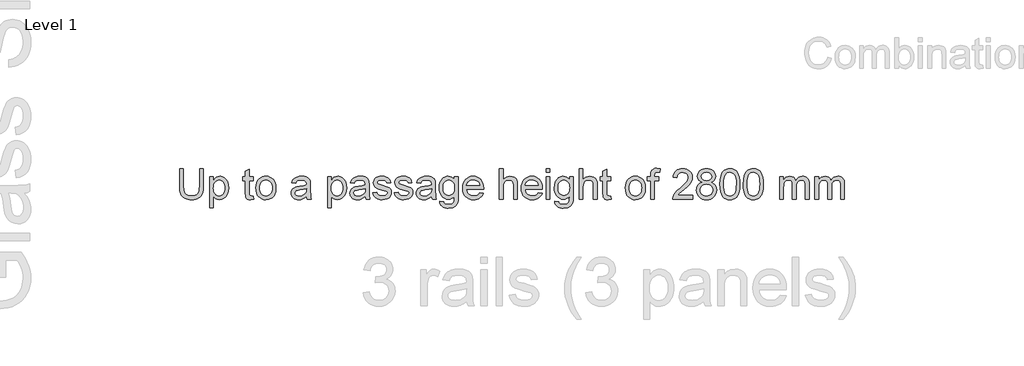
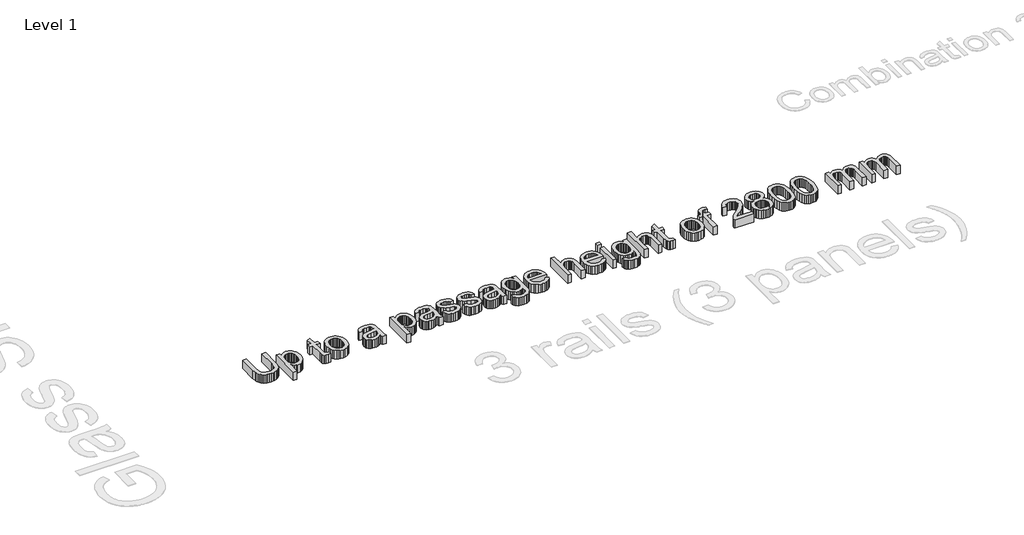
# One storey, part 7 of 47: 1 proxy.
"""IFC4 building model written with IfcOpenShell, lengths in millimetres."""

from ifc_helpers import new_model, si_unit, origin, origin_with_axes, place, context, project, spatial, polyline, outline, extrude, element, save

model = new_model("IFC4")

# Units and contexts
model_context = context("Model", 3, world=origin())
ifc_project = project(units=[si_unit("LENGTHUNIT", "METRE", prefix="MILLI")], contexts=[model_context])

# Site, building, storey
site = spatial("IfcSite", under=ifc_project)
building = spatial("IfcBuilding", under=site)
storey = spatial("IfcBuildingStorey", under=building, Name="Level 1", Elevation=0.0)

# Proxy
placement = place(None, origin())
element("IfcBuildingElementProxy", 1, Name="500mm Arial", ObjectType="500mm Arial", at=placement, inside=storey, context=model_context, shape_type="SweptSolid", body=[
    extrude(outline(polyline([(173703.9255584, -47356.4083813), (173766.7107522, -47356.4083813), (173766.7107522, -47646.1767662), (173762.4494525, -47714.0356658), (173749.6655531, -47766.2902376), (173739.4338351, -47787.4817733), (173725.7838803, -47806.6039729), (173708.7156886, -47823.6568362), (173688.2292599, -47838.6403633), (173664.3016018, -47850.8456149), (173636.9097216, -47859.5636518), (173606.0536193, -47864.7944739), (173571.7332948, -47866.5380813), (173538.2598653, -47865.020568), (173507.9824107, -47860.4680283), (173480.9009309, -47852.8804622), (173457.015426, -47842.2578696), (173436.3220637, -47828.7573668), (173418.8170121, -47812.5360701), (173404.5002712, -47793.5939794), (173393.3718408, -47771.9310948), (173385.0293501, -47746.8039881), (173379.0704282, -47717.4692311), (173374.3032907, -47646.1767662), (173374.3032907, -47356.4083813), (173437.0884846, -47356.4083813), (173437.0884846, -47643.9694742), (173440.1848247, -47700.3933752), (173449.4738451, -47739.6801066), (173466.3044464, -47766.8880458), (173492.0255292, -47787.0755703), (173525.5641044, -47799.5835581), (173565.8471829, -47803.7528874), (173600.4510831, -47801.6912154), (173629.7053659, -47795.5061994), (173653.6100314, -47785.1978393), (173672.1650795, -47770.7661352), (173686.060289, -47750.4713118), (173695.9854387, -47722.5735938), (173701.9405285, -47687.0729813), (173703.9255584, -47643.9694742), (173703.9255584, -47356.4083813)])), origin_with_axes(), (0.0, 0.0, 1.0), 150.0),
    extrude(outline(polyline([(173868.7366922, -47999.9566182), (173868.7366922, -47489.8269182), (173931.5218861, -47489.8269182), (173931.5218861, -47551.3858387), (173952.0006505, -47521.0202457), (173974.9319615, -47499.3305364), (174001.6647198, -47486.3167108), (174033.5478261, -47481.978769), (174055.444469, -47483.4962822), (174076.0075397, -47488.0488219), (174095.2370381, -47495.636388), (174113.1329644, -47506.2589807), (174129.3044437, -47519.6406882), (174143.3606016, -47535.5055993), (174165.126953, -47574.6850318), (174178.2787344, -47620.9461926), (174182.6626615, -47671.4379965), (174177.7115829, -47725.1334394), (174162.8583474, -47773.1573682), (174151.8372159, -47794.4332102), (174138.5781357, -47813.0725646), (174123.0811067, -47829.0754314), (174105.3461288, -47842.4418106), (174066.6418772, -47860.5140136), (174025.9449315, -47866.5380813), (173997.0815233, -47862.5067077), (173971.3144552, -47850.4125871), (173949.2568639, -47832.1564431), (173931.5218861, -47809.6389993), (173931.5218861, -47999.9566182), (173868.7366922, -47999.9566182)]), holes=[polyline([(173931.5218861, -47677.2014811), (173933.2195082, -47707.4597752), (173938.3123746, -47733.4874263), (173946.8004852, -47755.2844346), (173958.6838401, -47772.8507998), (173972.9890847, -47786.3704631), (173988.7428648, -47796.0273655), (174005.9451801, -47801.8215069), (174024.5960309, -47803.7528874), (174043.5151289, -47801.7525291), (174061.0316768, -47795.751454), (174077.1456746, -47785.7496623), (174091.8571223, -47771.7471538), (174104.1160234, -47753.5446593), (174112.8723813, -47730.9429092), (174118.126196, -47703.9419036), (174119.8774676, -47672.5416425), (174118.1683492, -47642.5439314), (174113.0409939, -47616.5622655), (174104.4954017, -47594.5966447), (174092.5315726, -47576.6470691), (174078.191839, -47562.6982101), (174062.5185332, -47552.7347394), (174045.5116551, -47546.756657), (174027.1712048, -47544.7639628), (174008.8882361, -47546.8831164), (173991.6859207, -47553.2405771), (173975.5642587, -47563.836345), (173960.52325, -47578.67042), (173947.8351533, -47597.5435328), (173938.7722271, -47620.2564139), (173933.3344713, -47646.8090633), (173931.5218861, -47677.2014811)])]), origin_with_axes(), (0.0, 0.0, 1.0), 150.0),
    extrude(outline(polyline([(174582.9182722, -47806.3280614), (174590.7664214, -47860.529342), (174543.8001534, -47866.5380813), (174513.6644866, -47863.9322505), (174491.1930281, -47856.1147581), (174475.3127886, -47844.0666227), (174464.9507791, -47828.7688631), (174459.2486082, -47802.4959573), (174457.3478845, -47757.5223834), (174457.3478845, -47552.612112), (174410.2589891, -47552.612112), (174410.2589891, -47489.8269182), (174457.3478845, -47489.8269182), (174457.3478845, -47400.1863387), (174520.1330784, -47363.2755119), (174520.1330784, -47489.8269182), (174582.9182722, -47489.8269182), (174582.9182722, -47552.612112), (174520.1330784, -47552.612112), (174520.1330784, -47755.6829734), (174523.4440163, -47788.056589), (174534.1739079, -47799.5222445), (174555.5723772, -47803.7528874), (174582.9182722, -47806.3280614)])), origin_with_axes(), (0.0, 0.0, 1.0), 150.0),
    extrude(outline(polyline([(174630.0071676, -47674.2584251), (174633.4024118, -47626.4874152), (174643.5881446, -47585.3229528), (174660.5643658, -47550.7650379), (174684.3310756, -47522.8136704), (174708.2587337, -47504.948401), (174734.6695952, -47492.1874943), (174763.5636603, -47484.5309503), (174794.9409288, -47481.978769), (174829.5793179, -47485.0866054), (174860.8991048, -47494.4101147), (174888.9002896, -47509.9492969), (174913.5828722, -47531.704152), (174933.7282436, -47558.9389159), (174948.1177945, -47590.9178248), (174956.7515251, -47627.6408785), (174959.6294353, -47669.1080772), (174954.540401, -47732.5370645), (174948.1791082, -47758.5723799), (174939.2732982, -47780.8215764), (174927.9341021, -47800.0395785), (174914.272651, -47816.9813108), (174898.2889447, -47831.6467733), (174879.9829833, -47844.0359659), (174839.2553808, -47860.9125524), (174794.9409288, -47866.5380813), (174759.7967019, -47863.4417411), (174728.1856751, -47854.1527208), (174700.1078482, -47838.6710201), (174675.5632213, -47816.9966392), (174655.6324478, -47789.4974601), (174641.396181, -47756.5413647), (174632.854421, -47718.128353), (174630.0071676, -47674.2584251)]), holes=[polyline([(174692.7923614, -47674.1357978), (174694.6087788, -47704.5895292), (174700.0580308, -47730.9582376), (174709.1401176, -47753.2419231), (174721.8550391, -47771.4405855), (174737.3214113, -47785.5772176), (174754.6578503, -47795.6748119), (174773.8643561, -47801.7333685), (174794.9409288, -47803.7528874), (174815.9102025, -47801.7218722), (174835.0400662, -47795.6288267), (174852.33052, -47785.4737508), (174867.7815638, -47771.2566445), (174880.4964853, -47752.8778732), (174889.578572, -47730.237802), (174895.0278241, -47703.3364312), (174896.8442414, -47672.1737605), (174895.0163278, -47642.6857193), (174889.5325868, -47617.0067896), (174880.3930185, -47595.1369714), (174867.5976228, -47577.0762647), (174852.0890975, -47562.9396326), (174834.81014, -47552.8420383), (174815.7607504, -47546.7834817), (174794.9409288, -47544.7639628), (174773.8643561, -47546.7758175), (174754.6578503, -47552.8113815), (174737.3214113, -47562.8706548), (174721.8550391, -47576.9536374), (174709.1401176, -47595.0986504), (174700.0580308, -47617.3440148), (174694.6087788, -47643.6897306), (174692.7923614, -47674.1357978)])]), origin_with_axes(), (0.0, 0.0, 1.0), 150.0),
    extrude(outline(polyline([(175461.910986, -47811.6010366), (175431.913275, -47837.3221195), (175401.0265158, -47854.1527208), (175368.5456013, -47863.4417411), (175333.7654244, -47866.5380813), (175305.8102248, -47864.6756787), (175281.2962548, -47859.0884709), (175260.2235143, -47849.7764579), (175242.5920032, -47836.7396397), (175228.669969, -47820.8057507), (175218.7256588, -47802.8025256), (175212.7590727, -47782.7299642), (175210.7702106, -47760.5880667), (175213.7745803, -47734.5604155), (175222.7876892, -47710.9239973), (175236.6905629, -47690.6904876), (175254.3642271, -47674.8715618), (175275.1342314, -47662.9153969), (175298.3261255, -47654.27017), (175352.6500335, -47644.8278655), (175416.8454416, -47634.8950516), (175461.543104, -47623.2454551), (175461.910986, -47609.2659393), (175457.5883726, -47581.245594), (175444.6205323, -47562.9128079), (175431.545393, -47554.9726882), (175415.6191683, -47549.3011741), (175375.2134625, -47544.7639628), (175337.8121263, -47547.7836609), (175311.6925047, -47556.842755), (175293.8808847, -47573.5967142), (175281.4035537, -47599.7010074), (175218.6183599, -47591.8528582), (175229.516864, -47557.5172053), (175245.7803139, -47530.5391923), (175268.9262227, -47509.9071438), (175300.4721038, -47494.6093841), (175339.0537281, -47485.1364228), (175383.3068664, -47481.978769), (175425.7512516, -47484.7685408), (175459.3971257, -47493.1378562), (175484.765655, -47505.7224861), (175502.3780055, -47521.1582015), (175514.0582588, -47540.24208), (175521.6304966, -47563.7711992), (175524.6961799, -47618.7082438), (175524.6961799, -47696.8218542), (175527.8844905, -47805.8988657), (175532.6056428, -47832.8615503), (175540.3924783, -47858.689932), (175477.6072845, -47858.689932), (175467.5518433, -47836.862267), (175461.910986, -47811.6010366)]), holes=[polyline([(175461.910986, -47686.030649), (175419.7271839, -47696.484629), (175360.62081, -47705.28314), (175306.6034704, -47715.4612086), (175292.5473125, -47722.4203097), (175282.1393177, -47732.0158984), (175275.7013828, -47743.5122107), (175273.5554045, -47756.1734827), (175278.2305715, -47774.843494), (175292.2560726, -47790.1412536), (175315.3253394, -47800.349979), (175347.1318035, -47803.7528874), (175380.8543198, -47799.9974254), (175410.6527614, -47788.7310393), (175434.8103457, -47772.1303642), (175451.6102902, -47752.3720354), (175459.0599006, -47732.0158984), (175461.543104, -47703.8116121), (175461.910986, -47686.030649)])]), origin_with_axes(), (0.0, 0.0, 1.0), 150.0),
    extrude(outline(polyline([(175807.2295522, -47999.9566182), (175807.2295522, -47489.8269182), (175870.014746, -47489.8269182), (175870.014746, -47551.3858387), (175890.4935104, -47521.0202457), (175913.4248214, -47499.3305364), (175940.1575798, -47486.3167108), (175972.040686, -47481.978769), (175993.9373289, -47483.4962822), (176014.5003996, -47488.0488219), (176033.7298981, -47495.636388), (176051.6258243, -47506.2589807), (176067.7973037, -47519.6406882), (176081.8534616, -47535.5055993), (176103.6198129, -47574.6850318), (176116.7715943, -47620.9461926), (176121.1555214, -47671.4379965), (176116.2044429, -47725.1334394), (176101.3512073, -47773.1573682), (176090.3300759, -47794.4332102), (176077.0709956, -47813.0725646), (176061.5739666, -47829.0754314), (176043.8389887, -47842.4418106), (176005.1347372, -47860.5140136), (175964.4377914, -47866.5380813), (175935.5743832, -47862.5067077), (175909.8073152, -47850.4125871), (175887.7497239, -47832.1564431), (175870.014746, -47809.6389993), (175870.014746, -47999.9566182), (175807.2295522, -47999.9566182)]), holes=[polyline([(175870.014746, -47677.2014811), (175871.7123681, -47707.4597752), (175876.8052345, -47733.4874263), (175885.2933451, -47755.2844346), (175897.1767, -47772.8507998), (175911.4819446, -47786.3704631), (175927.2357247, -47796.0273655), (175944.4380401, -47801.8215069), (175963.0888908, -47803.7528874), (175982.0079888, -47801.7525291), (175999.5245367, -47795.751454), (176015.6385345, -47785.7496623), (176030.3499822, -47771.7471538), (176042.6088833, -47753.5446593), (176051.3652412, -47730.9429092), (176056.619056, -47703.9419036), (176058.3703275, -47672.5416425), (176056.6612091, -47642.5439314), (176051.5338538, -47616.5622655), (176042.9882616, -47594.5966447), (176031.0244326, -47576.6470691), (176016.684699, -47562.6982101), (176001.0113931, -47552.7347394), (175984.0045151, -47546.756657), (175965.6640648, -47544.7639628), (175947.381096, -47546.8831164), (175930.1787806, -47553.2405771), (175914.0571186, -47563.836345), (175899.01611, -47578.67042), (175886.3280132, -47597.5435328), (175877.265087, -47620.2564139), (175871.8273313, -47646.8090633), (175870.014746, -47677.2014811)])]), origin_with_axes(), (0.0, 0.0, 1.0), 150.0),
    extrude(outline(polyline([(176427.2333414, -47811.6010366), (176397.2356303, -47837.3221195), (176366.3488712, -47854.1527208), (176333.8679567, -47863.4417411), (176299.0877797, -47866.5380813), (176271.1325802, -47864.6756787), (176246.6186102, -47859.0884709), (176225.5458696, -47849.7764579), (176207.9143586, -47836.7396397), (176193.9923243, -47820.8057507), (176184.0480141, -47802.8025256), (176178.081428, -47782.7299642), (176176.092566, -47760.5880667), (176179.0969356, -47734.5604155), (176188.1100445, -47710.9239973), (176202.0129182, -47690.6904876), (176219.6865824, -47674.8715618), (176240.4565867, -47662.9153969), (176263.6484808, -47654.27017), (176317.9723888, -47644.8278655), (176382.167797, -47634.8950516), (176426.8654594, -47623.2454551), (176427.2333414, -47609.2659393), (176422.9107279, -47581.245594), (176409.9428876, -47562.9128079), (176396.8677483, -47554.9726882), (176380.9415236, -47549.3011741), (176340.5358178, -47544.7639628), (176303.1344817, -47547.7836609), (176277.01486, -47556.842755), (176259.2032401, -47573.5967142), (176246.7259091, -47599.7010074), (176183.9407152, -47591.8528582), (176194.8392193, -47557.5172053), (176211.1026692, -47530.5391923), (176234.2485781, -47509.9071438), (176265.7944592, -47494.6093841), (176304.3760834, -47485.1364228), (176348.6292217, -47481.978769), (176391.0736069, -47484.7685408), (176424.7194811, -47493.1378562), (176450.0880103, -47505.7224861), (176467.7003608, -47521.1582015), (176479.3806142, -47540.24208), (176486.9528519, -47563.7711992), (176490.0185352, -47618.7082438), (176490.0185352, -47696.8218542), (176493.2068458, -47805.8988657), (176497.9279981, -47832.8615503), (176505.7148337, -47858.689932), (176442.9296398, -47858.689932), (176432.8741986, -47836.862267), (176427.2333414, -47811.6010366)]), holes=[polyline([(176427.2333414, -47686.030649), (176385.0495393, -47696.484629), (176325.9431654, -47705.28314), (176271.9258257, -47715.4612086), (176257.8696678, -47722.4203097), (176247.4616731, -47732.0158984), (176241.0237381, -47743.5122107), (176238.8777598, -47756.1734827), (176243.5529269, -47774.843494), (176257.5784279, -47790.1412536), (176280.6476947, -47800.349979), (176312.4541589, -47803.7528874), (176346.1766751, -47799.9974254), (176375.9751167, -47788.7310393), (176400.1327011, -47772.1303642), (176416.9326455, -47752.3720354), (176424.3822559, -47732.0158984), (176426.8654594, -47703.8116121), (176427.2333414, -47686.030649)])]), origin_with_axes(), (0.0, 0.0, 1.0), 150.0),
    extrude(outline(polyline([(176552.8037291, -47748.8158428), (176615.5889229, -47740.9676936), (176625.4910799, -47767.8230792), (176644.6516005, -47787.5660796), (176673.193112, -47799.7061855), (176711.2382416, -47803.7528874), (176748.8235188, -47800.0434106), (176775.2497088, -47788.9149803), (176790.8846936, -47772.7894862), (176796.0963552, -47754.0888181), (176790.8540368, -47738.0859513), (176775.1270815, -47725.8845318), (176710.5024777, -47707.9809413), (176653.2048569, -47691.4109231), (176615.9568049, -47677.2627947), (176592.0291468, -47661.8270794), (176574.6927078, -47641.3943002), (176564.1620857, -47617.2673727), (176560.6518783, -47590.7492122), (176563.4723069, -47566.4230153), (176571.9335928, -47543.9668852), (176585.2693151, -47524.26987), (176602.7130531, -47508.221018), (176620.0494921, -47498.1195915), (176642.6282495, -47489.6429772), (176668.7325428, -47483.894821), (176696.6455892, -47481.978769), (176737.5111475, -47485.0597807), (176773.0424168, -47494.3028158), (176801.6145851, -47508.8034978), (176821.6028402, -47527.65745), (176834.846592, -47552.2595585), (176843.1852506, -47584.004709), (176780.4000567, -47591.8528582), (176772.4752654, -47572.0945294), (176756.7942954, -47557.210637), (176733.2038624, -47547.8756314), (176701.5506824, -47544.7639628), (176665.4982469, -47547.7376756), (176641.4632899, -47556.658814), (176627.9436266, -47569.5346838), (176623.4370721, -47584.372591), (176625.3071389, -47594.0294933), (176630.9173394, -47602.6440634), (176640.5129281, -47610.3389285), (176654.3391597, -47616.5009519), (176708.417813, -47629.867331), (176800.5722528, -47659.420518), (176824.9137782, -47673.553318), (176843.3691916, -47692.8977795), (176855.0034597, -47717.5152164), (176858.881549, -47747.4669422), (176854.3290094, -47778.4303434), (176840.6713903, -47807.5543347), (176818.429858, -47832.554982), (176788.1255786, -47851.1483511), (176751.5213201, -47862.6906487), (176710.3798503, -47866.5380813), (176676.5883562, -47864.6833429), (176647.0734903, -47859.1191277), (176621.8352526, -47849.8454357), (176600.8736431, -47836.862267), (176583.7518019, -47820.2309351), (176570.0328692, -47800.0127538), (176559.7168449, -47776.207723), (176552.8037291, -47748.8158428)])), origin_with_axes(), (0.0, 0.0, 1.0), 150.0),
    extrude(outline(polyline([(176905.9704444, -47748.8158428), (176968.7556383, -47740.9676936), (176978.6577953, -47767.8230792), (176997.8183159, -47787.5660796), (177026.3598273, -47799.7061855), (177064.404957, -47803.7528874), (177101.9902342, -47800.0434106), (177128.4164242, -47788.9149803), (177144.051409, -47772.7894862), (177149.2630706, -47754.0888181), (177144.0207521, -47738.0859513), (177128.2937968, -47725.8845318), (177063.669193, -47707.9809413), (177006.3715723, -47691.4109231), (176969.1235203, -47677.2627947), (176945.1958622, -47661.8270794), (176927.8594231, -47641.3943002), (176917.328801, -47617.2673727), (176913.8185937, -47590.7492122), (176916.6390223, -47566.4230153), (176925.1003082, -47543.9668852), (176938.4360305, -47524.26987), (176955.8797684, -47508.221018), (176973.2162075, -47498.1195915), (176995.7949649, -47489.6429772), (177021.8992582, -47483.894821), (177049.8123045, -47481.978769), (177090.6778628, -47485.0597807), (177126.2091322, -47494.3028158), (177154.7813005, -47508.8034978), (177174.7695556, -47527.65745), (177188.0133074, -47552.2595585), (177196.351966, -47584.004709), (177133.5667721, -47591.8528582), (177125.6419808, -47572.0945294), (177109.9610107, -47557.210637), (177086.3705778, -47547.8756314), (177054.7173978, -47544.7639628), (177018.6649623, -47547.7376756), (176994.6300053, -47556.658814), (176981.1103419, -47569.5346838), (176976.6037875, -47584.372591), (176978.4738543, -47594.0294933), (176984.0840547, -47602.6440634), (176993.6796434, -47610.3389285), (177007.5058751, -47616.5009519), (177061.5845284, -47629.867331), (177153.7389682, -47659.420518), (177178.0804935, -47673.553318), (177196.5359069, -47692.8977795), (177208.170175, -47717.5152164), (177212.0482644, -47747.4669422), (177207.4957247, -47778.4303434), (177193.8381056, -47807.5543347), (177171.5965734, -47832.554982), (177141.292294, -47851.1483511), (177104.6880355, -47862.6906487), (177063.5465657, -47866.5380813), (177029.7550716, -47864.6833429), (177000.2402057, -47859.1191277), (176975.001968, -47849.8454357), (176954.0403585, -47836.862267), (176936.9185173, -47820.2309351), (176923.1995845, -47800.0127538), (176912.8835602, -47776.207723), (176905.9704444, -47748.8158428)])), origin_with_axes(), (0.0, 0.0, 1.0), 150.0),
    extrude(outline(polyline([(177518.1260844, -47811.6010366), (177488.1283734, -47837.3221195), (177457.2416142, -47854.1527208), (177424.7606997, -47863.4417411), (177389.9805227, -47866.5380813), (177362.0253232, -47864.6756787), (177337.5113532, -47859.0884709), (177316.4386126, -47849.7764579), (177298.8071016, -47836.7396397), (177284.8850674, -47820.8057507), (177274.9407572, -47802.8025256), (177268.9741711, -47782.7299642), (177266.985309, -47760.5880667), (177269.9896787, -47734.5604155), (177279.0027875, -47710.9239973), (177292.9056613, -47690.6904876), (177310.5793255, -47674.8715618), (177331.3493298, -47662.9153969), (177354.5412239, -47654.27017), (177408.8651318, -47644.8278655), (177473.06054, -47634.8950516), (177517.7582024, -47623.2454551), (177518.1260844, -47609.2659393), (177513.803471, -47581.245594), (177500.8356306, -47562.9128079), (177487.7604914, -47554.9726882), (177471.8342667, -47549.3011741), (177431.4285609, -47544.7639628), (177394.0272247, -47547.7836609), (177367.907603, -47556.842755), (177350.0959831, -47573.5967142), (177337.6186521, -47599.7010074), (177274.8334583, -47591.8528582), (177285.7319624, -47557.5172053), (177301.9954122, -47530.5391923), (177325.1413211, -47509.9071438), (177356.6872022, -47494.6093841), (177395.2688264, -47485.1364228), (177439.5219648, -47481.978769), (177481.96635, -47484.7685408), (177515.6122241, -47493.1378562), (177540.9807533, -47505.7224861), (177558.5931039, -47521.1582015), (177570.2733572, -47540.24208), (177577.8455949, -47563.7711992), (177580.9112782, -47618.7082438), (177580.9112782, -47696.8218542), (177584.0995889, -47805.8988657), (177588.8207411, -47832.8615503), (177596.6075767, -47858.689932), (177533.8223829, -47858.689932), (177523.7669417, -47836.862267), (177518.1260844, -47811.6010366)]), holes=[polyline([(177518.1260844, -47686.030649), (177475.9422823, -47696.484629), (177416.8359084, -47705.28314), (177362.8185688, -47715.4612086), (177348.7624109, -47722.4203097), (177338.3544161, -47732.0158984), (177331.9164812, -47743.5122107), (177329.7705029, -47756.1734827), (177334.4456699, -47774.843494), (177348.471171, -47790.1412536), (177371.5404377, -47800.349979), (177403.3469019, -47803.7528874), (177437.0694181, -47799.9974254), (177466.8678597, -47788.7310393), (177491.0254441, -47772.1303642), (177507.8253885, -47752.3720354), (177515.2749989, -47732.0158984), (177517.7582024, -47703.8116121), (177518.1260844, -47686.030649)])]), origin_with_axes(), (0.0, 0.0, 1.0), 150.0),
    extrude(outline(polyline([(177651.5446213, -47890.082529), (177714.3298152, -47897.9306782), (177721.2582594, -47917.5510513), (177734.6859522, -47931.0400577), (177761.0814854, -47941.5246946), (177795.6317361, -47945.0195736), (177832.4812493, -47941.0648421), (177859.8884579, -47929.2006478), (177878.8956943, -47910.1934114), (177890.5452908, -47884.8095537), (177893.9481993, -47857.8008839), (177894.8372475, -47811.6010366), (177873.9446158, -47832.2024284), (177850.6300944, -47846.9177082), (177824.8936831, -47855.7468761), (177796.7353821, -47858.689932), (177762.3115908, -47855.264031), (177732.0034793, -47844.9863277), (177705.8110477, -47827.8568223), (177683.7342959, -47803.8755147), (177666.217748, -47775.104077), (177653.705928, -47743.6041812), (177646.1988361, -47709.3758272), (177643.6964721, -47672.4190151), (177648.1876981, -47621.7279419), (177661.6613762, -47575.1142274), (177683.6423254, -47535.6128982), (177697.6448338, -47519.667513), (177713.6553648, -47506.2589807), (177731.4171674, -47495.636388), (177750.6734906, -47488.0488219), (177771.4243344, -47483.4962822), (177793.6696988, -47481.978769), (177823.0312805, -47485.4123343), (177849.6797326, -47495.7130301), (177873.6150549, -47512.8808566), (177894.8372475, -47536.9158136), (177894.8372475, -47489.8269182), (177957.6224413, -47489.8269182), (177957.6224413, -47808.2900987), (177953.3304847, -47881.8205125), (177947.9655389, -47909.1702396), (177940.4546149, -47930.2429801), (177918.2743962, -47962.3560126), (177886.0693932, -47986.958121), (177866.3838744, -47996.0785288), (177844.544713, -48002.5931058), (177794.4054628, -48007.8047674), (177763.645163, -48005.9691895), (177735.9888676, -48000.4624559), (177711.4365766, -47991.2845666), (177689.9882898, -47978.4355215), (177672.6633471, -47961.8999922), (177660.4810881, -47941.6626504), (177653.4415129, -47917.7234959), (177651.5446213, -47890.082529)]), holes=[polyline([(177706.4816659, -47668.1270585), (177708.1562954, -47699.170934), (177713.1801839, -47725.7159192), (177721.5533314, -47747.7620142), (177733.2757379, -47765.3092189), (177747.5273331, -47778.6947586), (177763.4880468, -47788.2558584), (177781.1578788, -47793.9925182), (177800.5368294, -47795.9047382), (177819.7241747, -47794.0040145), (177837.3097005, -47788.3018436), (177853.2934067, -47778.7982254), (177867.6752935, -47765.4931599), (177879.5586483, -47748.1183999), (177888.046759, -47726.4056979), (177893.1396253, -47700.3550541), (177894.8372475, -47669.9664685), (177893.089808, -47640.8463093), (177887.8474896, -47615.5352616), (177879.1102922, -47594.0333254), (177866.8782158, -47576.3405007), (177852.1859286, -47562.5257654), (177836.0680987, -47552.6580973), (177818.5247261, -47546.7374964), (177799.5558107, -47544.7639628), (177780.90496, -47546.7068396), (177763.7026446, -47552.53547), (177747.9488646, -47562.2498539), (177733.6436199, -47575.8499914), (177721.760265, -47593.2745688), (177713.2721544, -47614.4622725), (177708.1792881, -47639.4131024), (177706.4816659, -47668.1270585)])]), origin_with_axes(), (0.0, 0.0, 1.0), 150.0),
    extrude(outline(polyline([(178310.0533927, -47748.8158428), (178371.6123132, -47756.663992), (178362.1738408, -47781.3197499), (178349.4320946, -47803.0477803), (178333.3870746, -47821.8480831), (178314.038781, -47837.7206583), (178291.5864829, -47850.3282808), (178266.22945, -47859.3337255), (178237.9676821, -47864.7369923), (178206.8011794, -47866.5380813), (178167.8440089, -47863.4302448), (178133.1328098, -47854.1067355), (178102.6675821, -47838.5675533), (178076.4483257, -47816.8126982), (178055.3640889, -47789.4476428), (178040.3039197, -47757.0778593), (178031.2678182, -47719.7033478), (178028.2557844, -47677.3241084), (178031.298475, -47633.5078299), (178040.4265471, -47594.8878847), (178055.6400004, -47561.4642726), (178076.9388351, -47533.2369936), (178103.0891136, -47510.8115203), (178132.8568983, -47494.7933251), (178166.2421894, -47485.182408), (178203.2449867, -47481.978769), (178239.0559997, -47485.1747438), (178271.4411116, -47494.7626683), (178300.4003224, -47510.7425425), (178325.9336321, -47533.1143663), (178346.7764464, -47561.2803316), (178361.6641709, -47594.64263), (178370.5968056, -47633.2012616), (178373.5743505, -47676.9562264), (178373.2064685, -47693.8787982), (178091.0409782, -47693.8787982), (178094.677645, -47718.9330949), (178101.9088255, -47740.8757231), (178112.7345196, -47759.7066827), (178127.1547274, -47775.4259738), (178144.3723712, -47787.8189985), (178163.5903734, -47796.671159), (178184.8087338, -47801.9824553), (178208.0274527, -47803.7528874), (178241.4434006, -47800.4726063), (178269.5863732, -47790.6317629), (178292.4563706, -47773.6172206), (178310.0533927, -47748.8158428)]), holes=[polyline([(178091.0409782, -47631.0936043), (178310.7891567, -47631.0936043), (178302.297214, -47597.9229111), (178285.6505537, -47574.1945224), (178268.5287125, -47561.3186526), (178249.0462951, -47552.1216027), (178227.2033017, -47546.6033728), (178202.9997321, -47544.7639628), (178160.6779742, -47550.6347463), (178142.2647139, -47557.9732257), (178125.6831994, -47568.2470968), (178111.7688294, -47580.9811788), (178101.3570025, -47595.7002907), (178094.4477188, -47612.4044326), (178091.0409782, -47631.0936043)])]), origin_with_axes(), (0.0, 0.0, 1.0), 150.0),
    extrude(outline(polyline([(178632.5632751, -47858.689932), (178632.5632751, -47356.4083813), (178695.348469, -47356.4083813), (178695.348469, -47541.0851429), (178718.4100715, -47515.2261043), (178744.3074312, -47496.7553624), (178773.0405478, -47485.6729173), (178804.6094215, -47481.978769), (178842.5319239, -47486.0101425), (178875.1201373, -47498.1042631), (178900.7799064, -47517.3107689), (178917.917076, -47542.6792982), (178927.5739784, -47577.5361172), (178930.7929459, -47625.2074924), (178930.7929459, -47858.689932), (178868.007752, -47858.689932), (178868.007752, -47631.706741), (178863.0106883, -47592.4046812), (178856.7643586, -47577.3981615), (178848.019497, -47565.4879819), (178836.9830371, -47556.4212235), (178823.8619126, -47549.9449676), (178791.3656697, -47544.7639628), (178764.8321808, -47548.2588418), (178739.923504, -47558.7434786), (178719.2914555, -47575.2061979), (178705.5878512, -47596.6353241), (178697.9083145, -47625.1155219), (178695.348469, -47662.7314559), (178695.348469, -47858.689932), (178632.5632751, -47858.689932)])), origin_with_axes(), (0.0, 0.0, 1.0), 150.0),
    extrude(outline(polyline([(179275.375748, -47748.8158428), (179336.9346686, -47756.663992), (179327.4961961, -47781.3197499), (179314.7544499, -47803.0477803), (179298.70943, -47821.8480831), (179279.3611363, -47837.7206583), (179256.9088383, -47850.3282808), (179231.5518054, -47859.3337255), (179203.2900375, -47864.7369923), (179172.1235347, -47866.5380813), (179133.1663643, -47863.4302448), (179098.4551652, -47854.1067355), (179067.9899375, -47838.5675533), (179041.7706811, -47816.8126982), (179020.6864442, -47789.4476428), (179005.6262751, -47757.0778593), (178996.5901736, -47719.7033478), (178993.5781397, -47677.3241084), (178996.6208304, -47633.5078299), (179005.7489024, -47594.8878847), (179020.9623557, -47561.4642726), (179042.2611904, -47533.2369936), (179068.4114689, -47510.8115203), (179098.1792537, -47494.7933251), (179131.5645447, -47485.182408), (179168.5673421, -47481.978769), (179204.3783551, -47485.1747438), (179236.7634669, -47494.7626683), (179265.7226778, -47510.7425425), (179291.2559875, -47533.1143663), (179312.0988018, -47561.2803316), (179326.9865263, -47594.64263), (179335.919161, -47633.2012616), (179338.8967059, -47676.9562264), (179338.5288239, -47693.8787982), (179056.3633336, -47693.8787982), (179060.0000004, -47718.9330949), (179067.2311808, -47740.8757231), (179078.056875, -47759.7066827), (179092.4770828, -47775.4259738), (179109.6947266, -47787.8189985), (179128.9127287, -47796.671159), (179150.1310892, -47801.9824553), (179173.349808, -47803.7528874), (179206.7657559, -47800.4726063), (179234.9087286, -47790.6317629), (179257.7787259, -47773.6172206), (179275.375748, -47748.8158428)]), holes=[polyline([(179056.3633336, -47631.0936043), (179276.111512, -47631.0936043), (179267.6195693, -47597.9229111), (179250.972909, -47574.1945224), (179233.8510678, -47561.3186526), (179214.3686505, -47552.1216027), (179192.525657, -47546.6033728), (179168.3220874, -47544.7639628), (179126.0003296, -47550.6347463), (179107.5870693, -47557.9732257), (179091.0055548, -47568.2470968), (179077.0911847, -47580.9811788), (179066.6793578, -47595.7002907), (179059.7700741, -47612.4044326), (179056.3633336, -47631.0936043)])]), origin_with_axes(), (0.0, 0.0, 1.0), 150.0),
    extrude(outline(polyline([(179401.6818997, -47419.1935751), (179401.6818997, -47356.4083813), (179464.4670935, -47356.4083813), (179464.4670935, -47419.1935751), (179401.6818997, -47419.1935751)])), origin_with_axes(), (0.0, 0.0, 1.0), 150.0),
    extrude(outline(polyline([(179401.6818997, -47858.689932), (179401.6818997, -47489.8269182), (179464.4670935, -47489.8269182), (179464.4670935, -47858.689932), (179401.6818997, -47858.689932)])), origin_with_axes(), (0.0, 0.0, 1.0), 150.0),
    extrude(outline(polyline([(179542.9485859, -47890.082529), (179605.7337797, -47897.9306782), (179612.6622239, -47917.5510513), (179626.0899168, -47931.0400577), (179652.4854499, -47941.5246946), (179687.0357006, -47945.0195736), (179723.8852138, -47941.0648421), (179751.2924225, -47929.2006478), (179770.2996589, -47910.1934114), (179781.9492554, -47884.8095537), (179785.3521638, -47857.8008839), (179786.241212, -47811.6010366), (179765.3485804, -47832.2024284), (179742.0340589, -47846.9177082), (179716.2976477, -47855.7468761), (179688.1393466, -47858.689932), (179653.7155553, -47855.264031), (179623.4074439, -47844.9863277), (179597.2150122, -47827.8568223), (179575.1382604, -47803.8755147), (179557.6217125, -47775.104077), (179545.1098926, -47743.6041812), (179537.6028006, -47709.3758272), (179535.1004366, -47672.4190151), (179539.5916626, -47621.7279419), (179553.0653407, -47575.1142274), (179575.0462899, -47535.6128982), (179589.0487984, -47519.667513), (179605.0593294, -47506.2589807), (179622.8211319, -47495.636388), (179642.0774551, -47488.0488219), (179662.8282989, -47483.4962822), (179685.0736633, -47481.978769), (179714.4352451, -47485.4123343), (179741.0836971, -47495.7130301), (179765.0190194, -47512.8808566), (179786.241212, -47536.9158136), (179786.241212, -47489.8269182), (179849.0264058, -47489.8269182), (179849.0264058, -47808.2900987), (179844.7344492, -47881.8205125), (179839.3695035, -47909.1702396), (179831.8585794, -47930.2429801), (179809.6783608, -47962.3560126), (179777.4733578, -47986.958121), (179757.7878389, -47996.0785288), (179735.9486776, -48002.5931058), (179685.8094273, -48007.8047674), (179655.0491276, -48005.9691895), (179627.3928322, -48000.4624559), (179602.8405411, -47991.2845666), (179581.3922543, -47978.4355215), (179564.0673116, -47961.8999922), (179551.8850527, -47941.6626504), (179544.8454774, -47917.7234959), (179542.9485859, -47890.082529)]), holes=[polyline([(179597.8856305, -47668.1270585), (179599.56026, -47699.170934), (179604.5841485, -47725.7159192), (179612.957296, -47747.7620142), (179624.6797024, -47765.3092189), (179638.9312977, -47778.6947586), (179654.8920113, -47788.2558584), (179672.5618434, -47793.9925182), (179691.9407939, -47795.9047382), (179711.1281392, -47794.0040145), (179728.713665, -47788.3018436), (179744.6973713, -47778.7982254), (179759.079258, -47765.4931599), (179770.9626129, -47748.1183999), (179779.4507235, -47726.4056979), (179784.5435899, -47700.3550541), (179786.241212, -47669.9664685), (179784.4937725, -47640.8463093), (179779.2514541, -47615.5352616), (179770.5142567, -47594.0333254), (179758.2821804, -47576.3405007), (179743.5898932, -47562.5257654), (179727.4720633, -47552.6580973), (179709.9286906, -47546.7374964), (179690.9597752, -47544.7639628), (179672.3089245, -47546.7068396), (179655.1066091, -47552.53547), (179639.3528291, -47562.2498539), (179625.0475844, -47575.8499914), (179613.1642296, -47593.2745688), (179604.676119, -47614.4622725), (179599.5832526, -47639.4131024), (179597.8856305, -47668.1270585)])]), origin_with_axes(), (0.0, 0.0, 1.0), 150.0),
    extrude(outline(polyline([(179943.2041966, -47858.689932), (179943.2041966, -47356.4083813), (180005.9893904, -47356.4083813), (180005.9893904, -47541.0851429), (180029.050993, -47515.2261043), (180054.9483526, -47496.7553624), (180083.6814693, -47485.6729173), (180115.250343, -47481.978769), (180153.1728454, -47486.0101425), (180185.7610588, -47498.1042631), (180211.4208279, -47517.3107689), (180228.5579975, -47542.6792982), (180238.2148999, -47577.5361172), (180241.4338674, -47625.2074924), (180241.4338674, -47858.689932), (180178.6486735, -47858.689932), (180178.6486735, -47631.706741), (180173.6516097, -47592.4046812), (180167.40528, -47577.3981615), (180158.6604184, -47565.4879819), (180147.6239586, -47556.4212235), (180134.5028341, -47549.9449676), (180102.0065912, -47544.7639628), (180075.4731023, -47548.2588418), (180050.5644255, -47558.7434786), (180029.932377, -47575.2061979), (180016.2287726, -47596.6353241), (180008.549236, -47625.1155219), (180005.9893904, -47662.7314559), (180005.9893904, -47858.689932), (179943.2041966, -47858.689932)])), origin_with_axes(), (0.0, 0.0, 1.0), 150.0),
    extrude(outline(polyline([(180461.1820458, -47806.3280614), (180469.030195, -47860.529342), (180422.063927, -47866.5380813), (180391.9282602, -47863.9322505), (180369.4568017, -47856.1147581), (180353.5765622, -47844.0666227), (180343.2145527, -47828.7688631), (180337.5123818, -47802.4959573), (180335.6116581, -47757.5223834), (180335.6116581, -47552.612112), (180288.5227627, -47552.612112), (180288.5227627, -47489.8269182), (180335.6116581, -47489.8269182), (180335.6116581, -47400.1863387), (180398.396852, -47363.2755119), (180398.396852, -47489.8269182), (180461.1820458, -47489.8269182), (180461.1820458, -47552.612112), (180398.396852, -47552.612112), (180398.396852, -47755.6829734), (180401.7077899, -47788.056589), (180412.4376815, -47799.5222445), (180433.8361508, -47803.7528874), (180461.1820458, -47806.3280614)])), origin_with_axes(), (0.0, 0.0, 1.0), 150.0),
    extrude(outline(polyline([(180704.474672, -47674.2584251), (180707.8699162, -47626.4874152), (180718.0556489, -47585.3229528), (180735.0318702, -47550.7650379), (180758.7985799, -47522.8136704), (180782.726238, -47504.948401), (180809.1370996, -47492.1874943), (180838.0311646, -47484.5309503), (180869.4084331, -47481.978769), (180904.0468222, -47485.0866054), (180935.3666092, -47494.4101147), (180963.367794, -47509.9492969), (180988.0503766, -47531.704152), (181008.1957479, -47558.9389159), (181022.5852989, -47590.9178248), (181031.2190294, -47627.6408785), (181034.0969396, -47669.1080772), (181029.0079054, -47732.5370645), (181022.6466125, -47758.5723799), (181013.7408026, -47780.8215764), (181002.4016065, -47800.0395785), (180988.7401553, -47816.9813108), (180972.756449, -47831.6467733), (180954.4504877, -47844.0359659), (180913.7228851, -47860.9125524), (180869.4084331, -47866.5380813), (180834.2642063, -47863.4417411), (180802.6531794, -47854.1527208), (180774.5753526, -47838.6710201), (180750.0307257, -47816.9966392), (180730.0999522, -47789.4974601), (180715.8636854, -47756.5413647), (180707.3219253, -47718.128353), (180704.474672, -47674.2584251)]), holes=[polyline([(180767.2598658, -47674.1357978), (180769.0762832, -47704.5895292), (180774.5255352, -47730.9582376), (180783.607622, -47753.2419231), (180796.3225434, -47771.4405855), (180811.7889156, -47785.5772176), (180829.1253547, -47795.6748119), (180848.3318605, -47801.7333685), (180869.4084331, -47803.7528874), (180890.3777069, -47801.7218722), (180909.5075706, -47795.6288267), (180926.7980244, -47785.4737508), (180942.2490682, -47771.2566445), (180954.9639896, -47752.8778732), (180964.0460764, -47730.237802), (180969.4953284, -47703.3364312), (180971.3117458, -47672.1737605), (180969.4838321, -47642.6857193), (180964.0000911, -47617.0067896), (180954.8605228, -47595.1369714), (180942.0651272, -47577.0762647), (180926.5566018, -47562.9396326), (180909.2776444, -47552.8420383), (180890.2282548, -47546.7834817), (180869.4084331, -47544.7639628), (180848.3318605, -47546.7758175), (180829.1253547, -47552.8113815), (180811.7889156, -47562.8706548), (180796.3225434, -47576.9536374), (180783.607622, -47595.0986504), (180774.5255352, -47617.3440148), (180769.0762832, -47643.6897306), (180767.2598658, -47674.1357978)])]), origin_with_axes(), (0.0, 0.0, 1.0), 150.0),
    extrude(outline(polyline([(181120.4265812, -47858.689932), (181120.4265812, -47552.612112), (181065.4895366, -47552.612112), (181065.4895366, -47489.8269182), (181120.4265812, -47489.8269182), (181120.4265812, -47452.6708367), (181122.0820501, -47421.9220333), (181127.0484571, -47400.308966), (181139.6790723, -47379.4316628), (181159.176818, -47362.9076299), (181186.4613993, -47352.1470815), (181222.4525212, -47348.5602321), (181279.7194851, -47355.4273626), (181270.5224352, -47414.2884819), (181234.3473723, -47411.3454259), (181210.4810279, -47413.9512567), (181194.8000579, -47421.7687491), (181186.1088457, -47436.6986267), (181183.211775, -47460.6416132), (181183.211775, -47489.8269182), (181253.8451181, -47489.8269182), (181253.8451181, -47552.612112), (181183.211775, -47552.612112), (181183.211775, -47858.689932), (181120.4265812, -47858.689932)])), origin_with_axes(), (0.0, 0.0, 1.0), 150.0),
    extrude(outline(polyline([(181811.0637134, -47795.9047382), (181811.0637134, -47858.689932), (181481.4414458, -47858.689932), (181482.8210033, -47836.5863555), (181488.185949, -47815.4024839), (181503.6676496, -47781.5726688), (181526.3230492, -47748.7545291), (181559.0952036, -47714.4035478), (181604.9271688, -47675.9752078), (181672.6787696, -47615.7958447), (181713.3297301, -47571.3740938), (181733.6552103, -47535.3216583), (181738.7365804, -47517.6633225), (181740.4303704, -47500.2502414), (181738.832383, -47483.8679963), (181734.0384207, -47468.8116592), (181726.0484836, -47455.0812302), (181714.8625717, -47442.6767092), (181701.1014858, -47432.402838), (181685.3860268, -47425.0643586), (181667.7161948, -47420.661271), (181648.0919896, -47419.1935751), (181608.9278855, -47424.9264029), (181592.6222825, -47432.0924376), (181578.5009788, -47442.1248862), (181567.0774765, -47454.6865235), (181558.8652773, -47469.4401243), (181553.8643815, -47486.3856887), (181552.0747888, -47505.5232167), (181489.289595, -47497.6750674), (181494.6890297, -47465.2631308), (181504.5107126, -47436.9438814), (181518.7546436, -47412.7173192), (181537.4208227, -47392.5834441), (181560.0800543, -47376.7568541), (181586.3031428, -47365.452147), (181616.0900881, -47358.6693227), (181649.4408902, -47356.4083813), (181683.0905965, -47358.9222416), (181713.0384901, -47366.4638225), (181739.2845712, -47379.033124), (181761.8288398, -47396.6301461), (181779.9355317, -47417.9519734), (181792.8688831, -47441.6956905), (181800.6288939, -47467.8612974), (181803.2155642, -47496.4487941), (181800.4257924, -47526.477162), (181792.056477, -47555.9843637), (181777.2032415, -47585.9974031), (181754.9617092, -47617.5432842), (181719.5070819, -47655.2052034), (181665.0145614, -47703.5663574), (181592.787063, -47763.9603183), (181564.4601493, -47795.9047382), (181811.0637134, -47795.9047382)])), origin_with_axes(), (0.0, 0.0, 1.0), 150.0),
    extrude(outline(polyline([(181965.3288968, -47582.0426717), (181931.7136794, -47565.4879819), (181908.1232465, -47543.0471802), (181894.1897159, -47515.180119), (181889.5452058, -47482.346651), (181892.0743945, -47456.7405313), (181899.6619606, -47433.2650614), (181912.3079042, -47411.9202415), (181930.0122252, -47392.7060715), (181951.9241966, -47376.825832), (181977.1930911, -47365.4828038), (182005.8189089, -47358.6769869), (182037.8016498, -47356.4083813), (182069.9376749, -47358.7306364), (182098.7780905, -47365.6974017), (182124.3228965, -47377.3086771), (182146.572093, -47393.5644628), (182164.5983108, -47413.154179), (182177.4741806, -47434.7672463), (182185.1997025, -47458.4036644), (182187.7748765, -47484.0634336), (182183.19168, -47515.8392409), (182169.4420904, -47543.2311212), (182146.3728236, -47565.5339671), (182113.8305955, -47582.0426717), (182134.4664761, -47590.8220222), (182152.4735334, -47601.9542846), (182167.8517672, -47615.439459), (182180.6011776, -47631.2775453), (182190.6068015, -47649.11599), (182197.7536756, -47668.6022394), (182203.471175, -47712.5181526), (182200.6354179, -47743.8341075), (182192.1281468, -47772.5442315), (182177.9493616, -47798.6485247), (182158.0990622, -47822.1469872), (182133.6195811, -47841.5680908), (182105.5532506, -47855.4403077), (182073.9000706, -47863.7636379), (182038.6600411, -47866.5380813), (182003.4200117, -47863.7521416), (181971.7668317, -47855.3943225), (181943.7005011, -47841.464624), (181919.22102, -47821.9630462), (181899.3707207, -47798.2998033), (181885.1919355, -47771.8851096), (181876.6846643, -47742.7189652), (181873.8489073, -47710.80137), (181875.3357637, -47686.9810108), (181879.7963329, -47665.1840026), (181887.2306149, -47645.4103453), (181897.6386096, -47627.6600391), (181910.790391, -47612.2549805), (181926.4560326, -47599.5170664), (181944.6355345, -47589.4462968), (181965.3288968, -47582.0426717)]), holes=[polyline([(181952.3303996, -47484.1860609), (181957.8946148, -47511.5932696), (181974.5872603, -47533.4822483), (181986.9841171, -47541.8515637), (182001.9178269, -47547.8296461), (182039.3958051, -47552.612112), (182076.0000636, -47547.8603029), (182090.6693582, -47541.9205416), (182102.916763, -47533.6048756), (182119.4714527, -47512.4516609), (182124.9896827, -47487.0064896), (182119.2875117, -47460.595628), (182102.180999, -47438.7526345), (182089.6576827, -47430.195546), (182074.8964177, -47424.08334), (182038.6600411, -47419.1935751), (182002.1937384, -47423.9760411), (181987.420977, -47429.9541235), (181974.9551423, -47438.3234389), (181957.9865853, -47459.3540263), (181952.3303996, -47484.1860609)]), polyline([(181936.6341011, -47708.594078), (181939.2552604, -47732.6137066), (181947.118738, -47755.8669144), (181961.6347484, -47776.1464094), (181984.2135058, -47791.2448996), (182011.2528325, -47800.6258905), (182039.1505505, -47803.7528874), (182061.8519352, -47802.1089148), (182081.8861756, -47797.1769968), (182099.2532714, -47788.9571334), (182113.9532228, -47777.4493248), (182125.6488046, -47763.4046632), (182134.0027915, -47747.5742411), (182139.0151837, -47729.9580584), (182140.6859811, -47710.5561153), (182138.9615343, -47690.8437717), (182133.7881937, -47672.9095245), (182125.1659595, -47656.7533735), (182113.0948315, -47642.3753189), (182097.9963413, -47630.5724382), (182080.2920203, -47622.1418091), (182059.9818684, -47617.0834317), (182037.0658858, -47615.3973059), (182014.6978941, -47617.0604391), (181994.928069, -47622.0498386), (181977.7564104, -47630.3655046), (181963.1829185, -47642.0074369), (181951.5678109, -47656.1479011), (181943.2713055, -47671.9591626), (181938.2934022, -47689.4412216), (181936.6341011, -47708.594078)])]), origin_with_axes(), (0.0, 0.0, 1.0), 150.0),
    extrude(outline(polyline([(182258.4082196, -47611.5958586), (182263.0220729, -47531.1983142), (182276.863633, -47467.0795482), (182287.2103141, -47440.8794523), (182299.794944, -47418.2585417), (182314.6175228, -47399.2168164), (182331.6780503, -47383.7542763), (182351.0340082, -47371.7904472), (182372.742878, -47363.244855), (182396.8046597, -47358.1174997), (182423.2193534, -47356.4083813), (182461.9082766, -47360.4550832), (182496.5504978, -47372.5951891), (182525.5212049, -47392.3535179), (182547.1955858, -47419.2548888), (182563.5663346, -47453.0693755), (182576.6261454, -47493.5670518), (182585.1794018, -47544.9938891), (182588.0304873, -47611.5958586), (182583.4626192, -47691.5335505), (182569.7590148, -47755.4990324), (182559.4928079, -47781.7106245), (182546.9656595, -47804.3660241), (182532.1775698, -47823.465231), (182515.1285386, -47839.0082453), (182495.749588, -47851.0525485), (182473.9717403, -47859.6556223), (182449.7949955, -47864.8174665), (182423.2193534, -47866.5380813), (182388.6384459, -47863.5490401), (182357.9816129, -47854.5819164), (182331.2488546, -47839.6367104), (182308.4401709, -47818.7134219), (182286.5511922, -47780.8905543), (182270.9162074, -47733.7633378), (182261.5352165, -47677.3317726), (182258.4082196, -47611.5958586)]), holes=[polyline([(182321.1934134, -47611.4732313), (182323.0328234, -47666.0538902), (182328.5510533, -47710.2342186), (182337.7481032, -47744.0142163), (182350.623973, -47767.3938836), (182366.1976442, -47783.3009477), (182383.4880979, -47794.6631365), (182402.4953344, -47801.4804497), (182423.2193534, -47803.7528874), (182443.9433725, -47801.4727855), (182462.9506089, -47794.6324796), (182480.2410627, -47783.2319699), (182495.8147338, -47767.2712562), (182508.6906036, -47743.853268), (182517.8876535, -47710.0809344), (182523.4058834, -47665.9542555), (182525.2452934, -47611.4732313), (182523.4671971, -47558.3372756), (182518.1329082, -47514.9348644), (182509.2424266, -47481.2659976), (182496.7957525, -47457.3306753), (182481.4826644, -47440.645694), (182463.9929412, -47428.7278502), (182444.3265829, -47421.5771439), (182422.4835894, -47419.1935751), (182401.8668693, -47421.2935682), (182383.1815296, -47427.5935473), (182366.4275704, -47438.0935126), (182351.6049917, -47452.793464), (182338.2999262, -47478.851772), (182328.796308, -47513.9845026), (182323.0941371, -47558.1916556), (182321.1934134, -47611.4732313)])]), origin_with_axes(), (0.0, 0.0, 1.0), 150.0),
    extrude(outline(polyline([(182642.9675319, -47611.5958586), (182647.5813852, -47531.1983142), (182661.4229453, -47467.0795482), (182671.7696264, -47440.8794523), (182684.3542563, -47418.2585417), (182699.1768351, -47399.2168164), (182716.2373626, -47383.7542763), (182735.5933205, -47371.7904472), (182757.3021903, -47363.244855), (182781.363972, -47358.1174997), (182807.7786657, -47356.4083813), (182846.4675889, -47360.4550832), (182881.1098101, -47372.5951891), (182910.0805172, -47392.3535179), (182931.7548981, -47419.2548888), (182948.1256469, -47453.0693755), (182961.1854577, -47493.5670518), (182969.7387141, -47544.9938891), (182972.5897996, -47611.5958586), (182968.0219314, -47691.5335505), (182954.3183271, -47755.4990324), (182944.0521202, -47781.7106245), (182931.5249718, -47804.3660241), (182916.7368821, -47823.465231), (182899.6878508, -47839.0082453), (182880.3089003, -47851.0525485), (182858.5310526, -47859.6556223), (182834.3543078, -47864.8174665), (182807.7786657, -47866.5380813), (182773.1977582, -47863.5490401), (182742.5409252, -47854.5819164), (182715.8081669, -47839.6367104), (182692.9994832, -47818.7134219), (182671.1105045, -47780.8905543), (182655.4755197, -47733.7633378), (182646.0945288, -47677.3317726), (182642.9675319, -47611.5958586)]), holes=[polyline([(182705.7527257, -47611.4732313), (182707.5921357, -47666.0538902), (182713.1103656, -47710.2342186), (182722.3074155, -47744.0142163), (182735.1832853, -47767.3938836), (182750.7569565, -47783.3009477), (182768.0474102, -47794.6631365), (182787.0546467, -47801.4804497), (182807.7786657, -47803.7528874), (182828.5026848, -47801.4727855), (182847.5099212, -47794.6324796), (182864.800375, -47783.2319699), (182880.3740461, -47767.2712562), (182893.2499159, -47743.853268), (182902.4469658, -47710.0809344), (182907.9651957, -47665.9542555), (182909.8046057, -47611.4732313), (182908.0265094, -47558.3372756), (182902.6922205, -47514.9348644), (182893.8017389, -47481.2659976), (182881.3550647, -47457.3306753), (182866.0419767, -47440.645694), (182848.5522535, -47428.7278502), (182828.8858952, -47421.5771439), (182807.0429017, -47419.1935751), (182786.4261816, -47421.2935682), (182767.7408419, -47427.5935473), (182750.9868827, -47438.0935126), (182736.164304, -47452.793464), (182722.8592385, -47478.851772), (182713.3556203, -47513.9845026), (182707.6534494, -47558.1916556), (182705.7527257, -47611.4732313)])]), origin_with_axes(), (0.0, 0.0, 1.0), 150.0),
    extrude(outline(polyline([(183239.4268734, -47858.689932), (183239.4268734, -47489.8269182), (183302.2120672, -47489.8269182), (183302.2120672, -47550.5274474), (183321.0966763, -47522.6450579), (183345.376888, -47500.8020644), (183374.2249678, -47486.6845928), (183406.8131812, -47481.978769), (183441.7313139, -47486.7765633), (183469.7210024, -47501.1699464), (183490.6289624, -47524.2085563), (183504.3019099, -47554.9420313), (183527.1872357, -47523.0206041), (183553.2915289, -47500.2195846), (183582.6147896, -47486.5389729), (183615.1570178, -47481.978769), (183640.2917887, -47483.8756605), (183662.3532121, -47489.5663351), (183681.341288, -47499.0507928), (183697.2560164, -47512.3290336), (183709.8368142, -47529.5543416), (183718.8230984, -47550.880001), (183724.2148688, -47576.3060118), (183726.0121257, -47605.832374), (183726.0121257, -47858.689932), (183663.2269318, -47858.689932), (183663.2269318, -47632.810387), (183661.7707323, -47601.4944322), (183657.4021336, -47580.3872027), (183649.2167592, -47565.932506), (183636.3102325, -47554.5741494), (183619.7095575, -47547.2165094), (183600.441738, -47544.7639628), (183582.6492786, -47546.3351255), (183566.4279819, -47551.0486136), (183551.7778478, -47558.904427), (183538.6988765, -47569.9025658), (183527.9421602, -47584.3649268), (183520.2587915, -47602.6134066), (183515.6487702, -47624.6480052), (183514.1120965, -47650.4687228), (183514.1120965, -47858.689932), (183451.3269026, -47858.689932), (183451.3269026, -47625.8206291), (183447.6940679, -47590.3200165), (183436.7955638, -47564.9974725), (183428.3687668, -47556.145312), (183417.6197148, -47549.8223402), (183389.1548454, -47544.7639628), (183364.9666042, -47548.1362144), (183342.6790867, -47558.2529693), (183324.2849869, -47574.8689728), (183311.7769991, -47597.7389701), (183304.6033002, -47629.4687922), (183302.2120672, -47672.6642698), (183302.2120672, -47858.689932), (183239.4268734, -47858.689932)])), origin_with_axes(), (0.0, 0.0, 1.0), 150.0),
    extrude(outline(polyline([(183820.1899164, -47858.689932), (183820.1899164, -47489.8269182), (183882.9751103, -47489.8269182), (183882.9751103, -47550.5274474), (183901.8597194, -47522.6450579), (183926.1399311, -47500.8020644), (183954.9880108, -47486.6845928), (183987.5762242, -47481.978769), (184022.494357, -47486.7765633), (184050.4840454, -47501.1699464), (184071.3920055, -47524.2085563), (184085.064953, -47554.9420313), (184107.9502788, -47523.0206041), (184134.054572, -47500.2195846), (184163.3778327, -47486.5389729), (184195.9200608, -47481.978769), (184221.0548317, -47483.8756605), (184243.1162551, -47489.5663351), (184262.104331, -47499.0507928), (184278.0190594, -47512.3290336), (184290.5998573, -47529.5543416), (184299.5861414, -47550.880001), (184304.9779119, -47576.3060118), (184306.7751687, -47605.832374), (184306.7751687, -47858.689932), (184243.9899749, -47858.689932), (184243.9899749, -47632.810387), (184242.5337753, -47601.4944322), (184238.1651766, -47580.3872027), (184229.9798022, -47565.932506), (184217.0732756, -47554.5741494), (184200.4726005, -47547.2165094), (184181.204781, -47544.7639628), (184163.4123216, -47546.3351255), (184147.1910249, -47551.0486136), (184132.5408909, -47558.904427), (184119.4619195, -47569.9025658), (184108.7052033, -47584.3649268), (184101.0218345, -47602.6134066), (184096.4118133, -47624.6480052), (184094.8751395, -47650.4687228), (184094.8751395, -47858.689932), (184032.0899457, -47858.689932), (184032.0899457, -47625.8206291), (184028.457111, -47590.3200165), (184017.5586069, -47564.9974725), (184009.1318099, -47556.145312), (183998.3827579, -47549.8223402), (183969.9178885, -47544.7639628), (183945.7296473, -47548.1362144), (183923.4421298, -47558.2529693), (183905.04803, -47574.8689728), (183892.5400422, -47597.7389701), (183885.3663433, -47629.4687922), (183882.9751103, -47672.6642698), (183882.9751103, -47858.689932), (183820.1899164, -47858.689932)])), origin_with_axes(), (0.0, 0.0, 1.0), 150.0),
])

save(model, "model.ifc")
